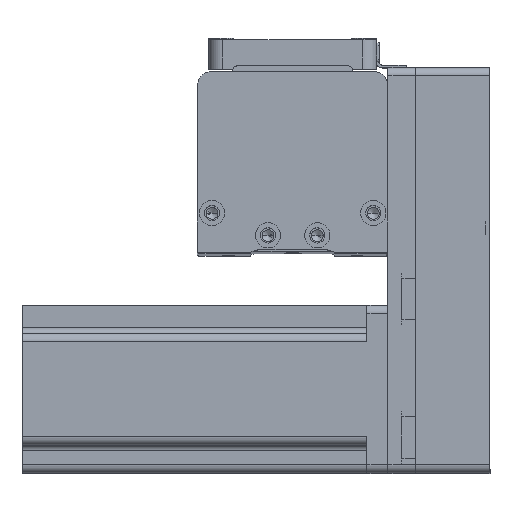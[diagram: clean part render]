
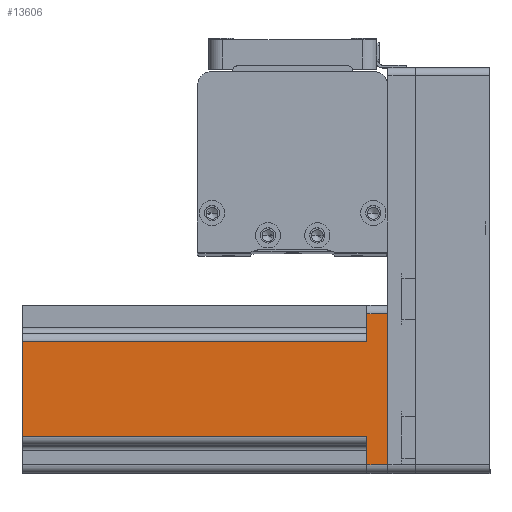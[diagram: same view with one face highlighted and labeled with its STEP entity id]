
A CAD part, top view. The second image highlights one B-rep face of the part: STEP entity #13606.
In plain terms, the highlighted planar face has unit normal (0, 0, 1) as drawn and (0, 1, 0) by its records, which use the part's own axes.
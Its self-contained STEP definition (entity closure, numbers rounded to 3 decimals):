
#332 = VECTOR ( 'NONE', #11236, 1000. ) ;
#1401 = LINE ( 'NONE', #7806, #332 ) ;
#1585 = CARTESIAN_POINT ( 'NONE',  ( 20., 30., 7.5 ) ) ;
#2463 = VERTEX_POINT ( 'NONE', #29903 ) ;
#2773 = CARTESIAN_POINT ( 'NONE',  ( -27., 30., 0. ) ) ;
#3162 = DIRECTION ( 'NONE',  ( 1., 0., 0. ) ) ;
#4373 = VERTEX_POINT ( 'NONE', #19540 ) ;
#4449 = LINE ( 'NONE', #43954, #13540 ) ;
#4505 = FACE_OUTER_BOUND ( 'NONE', #23434, .T. ) ;
#5684 = DIRECTION ( 'NONE',  ( 0., -1., 0. ) ) ;
#6242 = EDGE_CURVE ( 'NONE', #2463, #36032, #7656, .T. ) ;
#6639 = AXIS2_PLACEMENT_3D ( 'NONE', #26195, #5684, #29619 ) ;
#7656 = LINE ( 'NONE', #1585, #33883 ) ;
#7806 = CARTESIAN_POINT ( 'NONE',  ( 17., 30., 130.7 ) ) ;
#7839 = CARTESIAN_POINT ( 'NONE',  ( 30., 30., 0. ) ) ;
#8911 = LINE ( 'NONE', #28330, #24941 ) ;
#9705 = CARTESIAN_POINT ( 'NONE',  ( 27., 30., 0. ) ) ;
#10851 = CARTESIAN_POINT ( 'NONE',  ( 17., 30., 130.7 ) ) ;
#10878 = EDGE_CURVE ( 'NONE', #2463, #35552, #22294, .T. ) ;
#10935 = EDGE_CURVE ( 'NONE', #18331, #4373, #8911, .T. ) ;
#11236 = DIRECTION ( 'NONE',  ( 0., 0., -1. ) ) ;
#11256 = DIRECTION ( 'NONE',  ( -1., 0., 0. ) ) ;
#12132 = ORIENTED_EDGE ( 'NONE', *, *, #36817, .T. ) ;
#12670 = CARTESIAN_POINT ( 'NONE',  ( 17., 30., 7.5 ) ) ;
#13540 = VECTOR ( 'NONE', #3162, 1000. ) ;
#13606 = ADVANCED_FACE ( 'NONE', ( #4505 ), #25421, .F. ) ;
#13920 = VECTOR ( 'NONE', #16733, 1000. ) ;
#16733 = DIRECTION ( 'NONE',  ( 0., 0., 1. ) ) ;
#17614 = DIRECTION ( 'NONE',  ( 0., 0., -1. ) ) ;
#17756 = CARTESIAN_POINT ( 'NONE',  ( 27., 30., 130.7 ) ) ;
#18007 = CARTESIAN_POINT ( 'NONE',  ( -17., 30., 130.7 ) ) ;
#18331 = VERTEX_POINT ( 'NONE', #2773 ) ;
#19540 = CARTESIAN_POINT ( 'NONE',  ( -27., 30., 7.5 ) ) ;
#20632 = EDGE_CURVE ( 'NONE', #4373, #41248, #4449, .T. ) ;
#21207 = VECTOR ( 'NONE', #17614, 1000. ) ;
#22294 = LINE ( 'NONE', #17756, #21207 ) ;
#22617 = ORIENTED_EDGE ( 'NONE', *, *, #40901, .F. ) ;
#23434 = EDGE_LOOP ( 'NONE', ( #35303, #33909, #22617, #12132, #26782, #33224, #44244, #30070 ) ) ;
#24941 = VECTOR ( 'NONE', #38641, 1000. ) ;
#25421 = PLANE ( 'NONE',  #6639 ) ;
#25543 = DIRECTION ( 'NONE',  ( -1., 0., 0. ) ) ;
#26195 = CARTESIAN_POINT ( 'NONE',  ( 30., 30., 130.7 ) ) ;
#26782 = ORIENTED_EDGE ( 'NONE', *, *, #6242, .F. ) ;
#28330 = CARTESIAN_POINT ( 'NONE',  ( -27., 30., 130.7 ) ) ;
#28825 = EDGE_CURVE ( 'NONE', #35552, #18331, #37694, .T. ) ;
#29619 = DIRECTION ( 'NONE',  ( 1., 0., 0. ) ) ;
#29833 = LINE ( 'NONE', #33784, #38883 ) ;
#29903 = CARTESIAN_POINT ( 'NONE',  ( 27., 30., 7.5 ) ) ;
#30070 = ORIENTED_EDGE ( 'NONE', *, *, #10935, .T. ) ;
#32547 = VERTEX_POINT ( 'NONE', #10851 ) ;
#33224 = ORIENTED_EDGE ( 'NONE', *, *, #10878, .T. ) ;
#33784 = CARTESIAN_POINT ( 'NONE',  ( 30., 30., 130.7 ) ) ;
#33883 = VECTOR ( 'NONE', #25543, 1000. ) ;
#33897 = CARTESIAN_POINT ( 'NONE',  ( -17., 30., 130.7 ) ) ;
#33909 = ORIENTED_EDGE ( 'NONE', *, *, #34446, .T. ) ;
#34446 = EDGE_CURVE ( 'NONE', #41248, #38404, #42251, .T. ) ;
#35303 = ORIENTED_EDGE ( 'NONE', *, *, #20632, .T. ) ;
#35552 = VERTEX_POINT ( 'NONE', #9705 ) ;
#36015 = CARTESIAN_POINT ( 'NONE',  ( -17., 30., 7.5 ) ) ;
#36032 = VERTEX_POINT ( 'NONE', #12670 ) ;
#36817 = EDGE_CURVE ( 'NONE', #32547, #36032, #1401, .T. ) ;
#37694 = LINE ( 'NONE', #7839, #38782 ) ;
#38404 = VERTEX_POINT ( 'NONE', #18007 ) ;
#38641 = DIRECTION ( 'NONE',  ( 0., 0., 1. ) ) ;
#38782 = VECTOR ( 'NONE', #11256, 1000. ) ;
#38883 = VECTOR ( 'NONE', #40766, 1000. ) ;
#40766 = DIRECTION ( 'NONE',  ( -1., 0., 0. ) ) ;
#40901 = EDGE_CURVE ( 'NONE', #32547, #38404, #29833, .T. ) ;
#41248 = VERTEX_POINT ( 'NONE', #36015 ) ;
#42251 = LINE ( 'NONE', #33897, #13920 ) ;
#43954 = CARTESIAN_POINT ( 'NONE',  ( -20., 30., 7.5 ) ) ;
#44244 = ORIENTED_EDGE ( 'NONE', *, *, #28825, .T. ) ;
